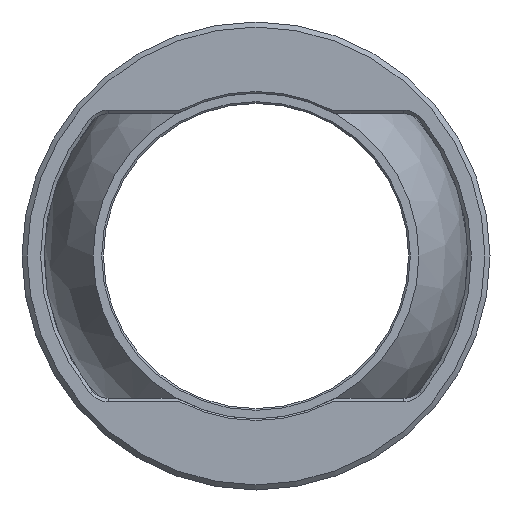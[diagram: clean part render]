
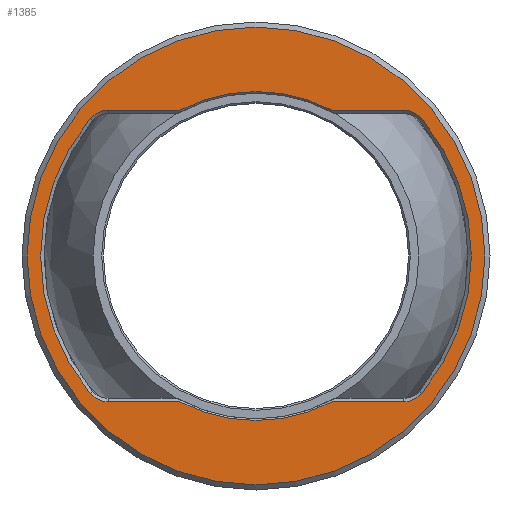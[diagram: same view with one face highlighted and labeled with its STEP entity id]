
A CAD part, front view. The second image highlights one B-rep face of the part: STEP entity #1385.
In plain terms, the highlighted planar face has unit normal (0, -1, 0).
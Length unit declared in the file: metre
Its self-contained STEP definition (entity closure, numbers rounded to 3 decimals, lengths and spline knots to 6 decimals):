
#1385=ADVANCED_FACE('',(#3501,#3502),#3503,.F.);
#3501=FACE_OUTER_BOUND('',#6959,.T.);
#3502=FACE_BOUND('',#6960,.T.);
#3503=PLANE('',#6961);
#6959=EDGE_LOOP('',(#11667));
#6960=EDGE_LOOP('',(#11668,#11669,#11670,#11671,#11672,#11673,#11674,#11675,#11676,#11677,#11678,#11679));
#6961=AXIS2_PLACEMENT_3D('',#11680,#11681,#11682);
#11667=ORIENTED_EDGE('',*,*,#12895,.F.);
#11668=ORIENTED_EDGE('',*,*,#12896,.T.);
#11669=ORIENTED_EDGE('',*,*,#12897,.T.);
#11670=ORIENTED_EDGE('',*,*,#12898,.T.);
#11671=ORIENTED_EDGE('',*,*,#12899,.T.);
#11672=ORIENTED_EDGE('',*,*,#12900,.T.);
#11673=ORIENTED_EDGE('',*,*,#12888,.T.);
#11674=ORIENTED_EDGE('',*,*,#12901,.T.);
#11675=ORIENTED_EDGE('',*,*,#12902,.T.);
#11676=ORIENTED_EDGE('',*,*,#12903,.T.);
#11677=ORIENTED_EDGE('',*,*,#12904,.T.);
#11678=ORIENTED_EDGE('',*,*,#12905,.T.);
#11679=ORIENTED_EDGE('',*,*,#12906,.T.);
#11680=CARTESIAN_POINT('',(0.024488,-0.011928,0.0));
#11681=DIRECTION('',(0.0,1.0,0.0));
#11682=DIRECTION('',(0.0,0.0,1.0));
#12888=EDGE_CURVE('',#13040,#13038,#13041,.T.);
#12895=EDGE_CURVE('',#13051,#13051,#13052,.T.);
#12896=EDGE_CURVE('',#13053,#13054,#13055,.T.);
#12897=EDGE_CURVE('',#13054,#13056,#13057,.T.);
#12898=EDGE_CURVE('',#13056,#13058,#13059,.T.);
#12899=EDGE_CURVE('',#13058,#13060,#13061,.T.);
#12900=EDGE_CURVE('',#13060,#13040,#13062,.T.);
#12901=EDGE_CURVE('',#13038,#13063,#13064,.T.);
#12902=EDGE_CURVE('',#13063,#13065,#13066,.T.);
#12903=EDGE_CURVE('',#13065,#13067,#13068,.T.);
#12904=EDGE_CURVE('',#13067,#13069,#13070,.T.);
#12905=EDGE_CURVE('',#13069,#13071,#13072,.T.);
#12906=EDGE_CURVE('',#13071,#13053,#13073,.T.);
#13038=VERTEX_POINT('',#13261);
#13040=VERTEX_POINT('',#13264);
#13041=CIRCLE('',#13265,0.0635);
#13051=VERTEX_POINT('',#13276);
#13052=CIRCLE('',#13277,0.0675);
#13053=VERTEX_POINT('',#13278);
#13054=VERTEX_POINT('',#13279);
#13055=CIRCLE('',#13280,0.007);
#13056=VERTEX_POINT('',#13281);
#13057=LINE('',#13282,#13283);
#13058=VERTEX_POINT('',#13284);
#13059=CIRCLE('',#13285,0.0485);
#13060=VERTEX_POINT('',#13286);
#13061=LINE('',#13287,#13288);
#13062=CIRCLE('',#13289,0.007);
#13063=VERTEX_POINT('',#13290);
#13064=CIRCLE('',#13291,0.007);
#13065=VERTEX_POINT('',#13292);
#13066=LINE('',#13293,#13294);
#13067=VERTEX_POINT('',#13295);
#13068=CIRCLE('',#13296,0.0485);
#13069=VERTEX_POINT('',#13297);
#13070=LINE('',#13298,#13299);
#13071=VERTEX_POINT('',#13300);
#13072=CIRCLE('',#13301,0.007);
#13073=CIRCLE('',#13302,0.0635);
#13261=CARTESIAN_POINT('',(0.024047,-0.011928,0.04046));
#13264=CARTESIAN_POINT('',(0.024047,-0.011928,-0.04046));
#13265=AXIS2_PLACEMENT_3D('',#13537,#13538,#13539);
#13276=CARTESIAN_POINT('',(0.072988,-0.011928,0.0675));
#13277=AXIS2_PLACEMENT_3D('',#13550,#13551,#13552);
#13278=CARTESIAN_POINT('',(0.121929,-0.011928,-0.04046));
#13279=CARTESIAN_POINT('',(0.116534,-0.011928,-0.043));
#13280=AXIS2_PLACEMENT_3D('',#13553,#13554,#13555);
#13281=CARTESIAN_POINT('',(0.095422,-0.011928,-0.043));
#13282=CARTESIAN_POINT('',(0.097242,-0.011928,-0.043));
#13283=VECTOR('',#13556,1.0);
#13284=CARTESIAN_POINT('',(0.050555,-0.011928,-0.043));
#13285=AXIS2_PLACEMENT_3D('',#13557,#13558,#13559);
#13286=CARTESIAN_POINT('',(0.029442,-0.011928,-0.043));
#13287=CARTESIAN_POINT('',(0.029442,-0.011928,-0.043));
#13288=VECTOR('',#13560,1.0);
#13289=AXIS2_PLACEMENT_3D('',#13561,#13562,#13563);
#13290=CARTESIAN_POINT('',(0.029442,-0.011928,0.043));
#13291=AXIS2_PLACEMENT_3D('',#13564,#13565,#13566);
#13292=CARTESIAN_POINT('',(0.050555,-0.011928,0.043));
#13293=CARTESIAN_POINT('',(0.048734,-0.011928,0.043));
#13294=VECTOR('',#13567,1.0);
#13295=CARTESIAN_POINT('',(0.095422,-0.011928,0.043));
#13296=AXIS2_PLACEMENT_3D('',#13568,#13569,#13570);
#13297=CARTESIAN_POINT('',(0.116534,-0.011928,0.043));
#13298=CARTESIAN_POINT('',(0.116534,-0.011928,0.043));
#13299=VECTOR('',#13571,1.0);
#13300=CARTESIAN_POINT('',(0.121929,-0.011928,0.04046));
#13301=AXIS2_PLACEMENT_3D('',#13572,#13573,#13574);
#13302=AXIS2_PLACEMENT_3D('',#13575,#13576,#13577);
#13537=CARTESIAN_POINT('',(0.072988,-0.011928,0.));
#13538=DIRECTION('',(0.0,1.0,0.0));
#13539=DIRECTION('',(0.0,0.0,1.0));
#13550=CARTESIAN_POINT('',(0.072988,-0.011928,0.0));
#13551=DIRECTION('',(0.0,1.0,0.0));
#13552=DIRECTION('',(0.0,0.0,1.0));
#13553=CARTESIAN_POINT('',(0.116534,-0.011928,-0.036));
#13554=DIRECTION('',(0.0,1.0,0.0));
#13555=DIRECTION('',(0.0,0.0,1.0));
#13556=DIRECTION('',(-1.0,0.0,0.));
#13557=CARTESIAN_POINT('',(0.072988,-0.011928,0.0));
#13558=DIRECTION('',(0.0,1.0,0.0));
#13559=DIRECTION('',(0.0,0.0,1.0));
#13560=DIRECTION('',(-1.0,0.0,0.));
#13561=CARTESIAN_POINT('',(0.029442,-0.011928,-0.036));
#13562=DIRECTION('',(0.0,1.0,0.0));
#13563=DIRECTION('',(0.0,0.0,1.0));
#13564=CARTESIAN_POINT('',(0.029442,-0.011928,0.036));
#13565=DIRECTION('',(0.0,1.0,0.0));
#13566=DIRECTION('',(0.0,0.0,1.0));
#13567=DIRECTION('',(1.0,0.0,0.));
#13568=CARTESIAN_POINT('',(0.072988,-0.011928,0.0));
#13569=DIRECTION('',(0.0,1.0,0.0));
#13570=DIRECTION('',(0.0,0.0,1.0));
#13571=DIRECTION('',(1.0,0.0,0.));
#13572=CARTESIAN_POINT('',(0.116534,-0.011928,0.036));
#13573=DIRECTION('',(0.0,1.0,0.0));
#13574=DIRECTION('',(0.0,0.0,1.0));
#13575=CARTESIAN_POINT('',(0.072988,-0.011928,0.));
#13576=DIRECTION('',(0.0,1.0,0.0));
#13577=DIRECTION('',(0.0,0.0,1.0));
